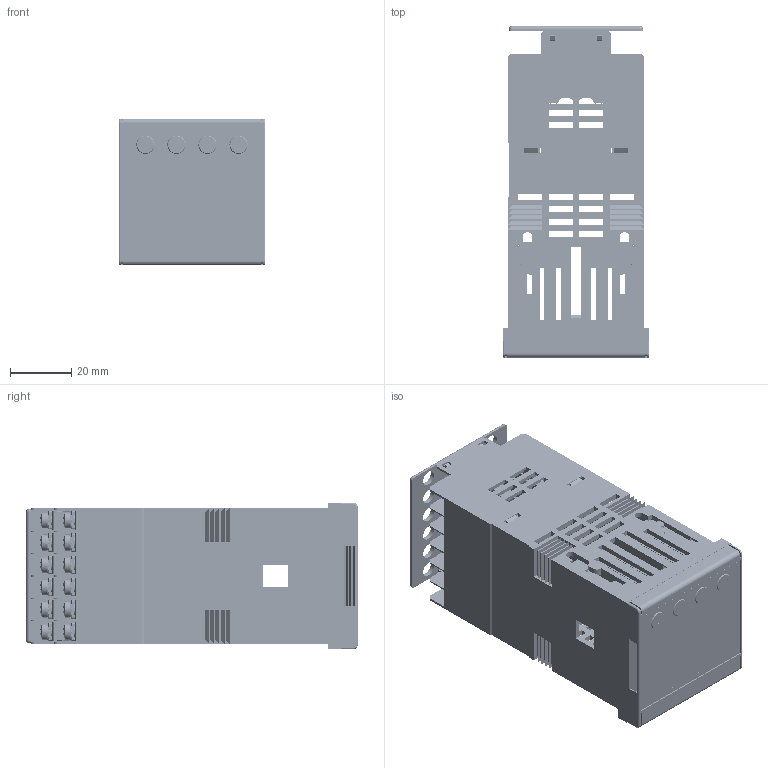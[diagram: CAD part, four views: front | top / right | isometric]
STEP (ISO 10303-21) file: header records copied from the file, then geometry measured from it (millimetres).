
FILE_DESCRIPTION((''),'2;1');
FILE_NAME('STRUMENTO_40T48','2019-07-17T13:25:01',('paolo.garatti'),('GEFRAN S.p.A via Carducci,24 21040 Gerenzano (VA)'),'CREO PARAMETRIC BY PTC INC, 2018300','CREO PARAMETRIC BY PTC INC, 2018300','');
FILE_SCHEMA(('AUTOMOTIVE_DESIGN { 1 0 10303 214 1 1 1 1 }'));
Products named in the file (17): SCATOLA48X48_600; 4915D_51600; DIS00919_04; DIS00919_56352; 1455D_48213_PLATE; 1455D_48213_SCREW; 1455D_48213; 46007; A1921_CG41; DIS00919_56248; A1921_CN41; A1922; GUARNIZIONE_ADESIVA; 3931D0_FRONTALE_600_AF0; LEXAN_600_AF0; 4848_51294; STRUMENTO_40T48
Assembly tree (41 placements, depth 5):
  STRUMENTO_40T48
    SCATOLA48X48_600
    A1922
      4915D_51600
      A1921_CG41  x4
        DIS00919_56352
          DIS00919_04
        1455D_48213
          1455D_48213_PLATE
          1455D_48213_SCREW
        46007
      A1921_CN41  x20
        DIS00919_56248
          DIS00919_04
        1455D_48213
          1455D_48213_PLATE
          1455D_48213_SCREW
        46007
    GUARNIZIONE_ADESIVA
    3931D0_FRONTALE_600_AF0
    LEXAN_600_AF0
    4848_51294
Bounding box: 48 x 108.66 x 48 mm (x, y, z)
Volume: 53232.3 mm3; surface area: 85316.3 mm2
Topology: 102 solids, 102 shells, 8991 faces, 23071 edges, 14295 vertices
Faces by surface type: plane 5145, cylinder 2334, bspline 768, cone 448, torus 244, sphere 52
Entity records: 120720 total; most frequent: CARTESIAN_POINT 17546, ORIENTED_EDGE 14770, DIRECTION 13067, PRESENTATION_STYLE_ASSIGNMENT 8473, STYLED_ITEM 8361, CURVE_STYLE 7385, EDGE_CURVE 7385, VECTOR 6529
